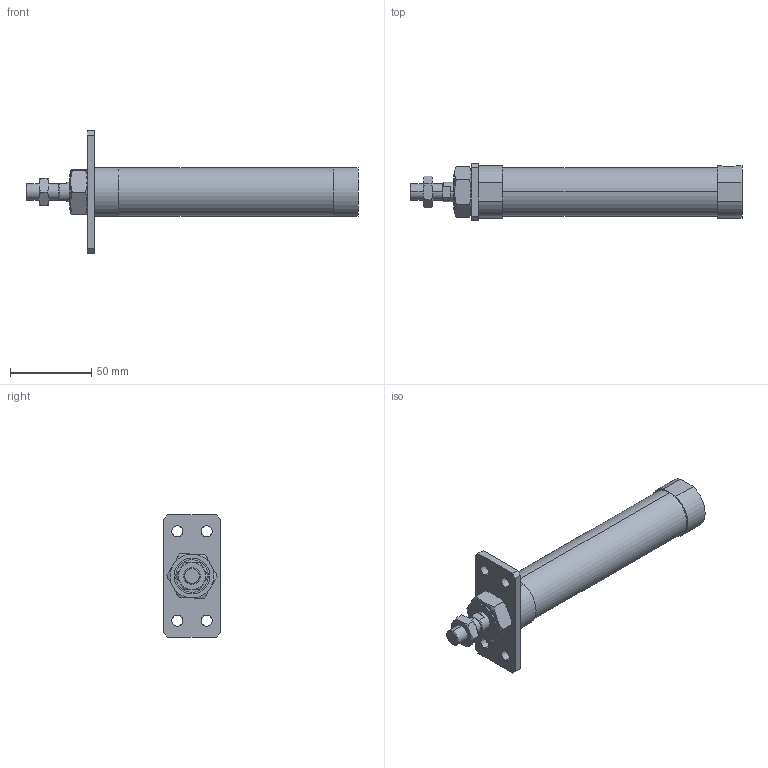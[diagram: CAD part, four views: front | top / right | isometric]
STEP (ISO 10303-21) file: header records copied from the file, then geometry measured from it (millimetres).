
FILE_DESCRIPTION (( 'STEP AP203' ), '1' );
FILE_NAME ('JGND1-25-50-A.STEP', '2016-08-04T02:18:26', ( '' ), ( '' ), 'SwSTEP 2.0', 'SolidWorks 2014', '' );
FILE_SCHEMA (( 'CONFIG_CONTROL_DESIGN' ));
Length unit declared in the file: millimetre
Products named in the file (5): J#1-25-50(P); JGND1-25-50-A; J#2-25-A
Assembly tree (4 placements, depth 2):
  JGND1-25-50-A
    J#1-25-50(P)
    (unnamed)
    (unnamed)
    J#2-25-A
Bounding box: 204 x 35 x 75 mm (x, y, z)
Volume: 137186 mm3; surface area: 28511.6 mm2
Topology: 4 solids, 4 shells, 105 faces, 242 edges, 147 vertices
Faces by surface type: plane 45, cylinder 30, torus 24, cone 6
Entity records: 3749 total; most frequent: CARTESIAN_POINT 873, DIRECTION 500, ORIENTED_EDGE 480, EDGE_CURVE 240, AXIS2_PLACEMENT_3D 202, VERTEX_POINT 147, EDGE_LOOP 123, FACE_OUTER_BOUND 105
